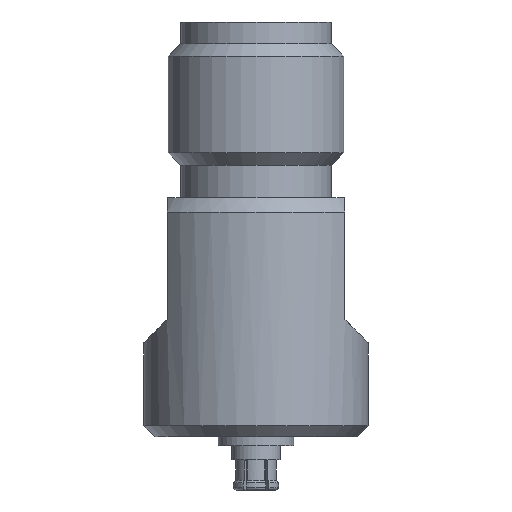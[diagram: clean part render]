
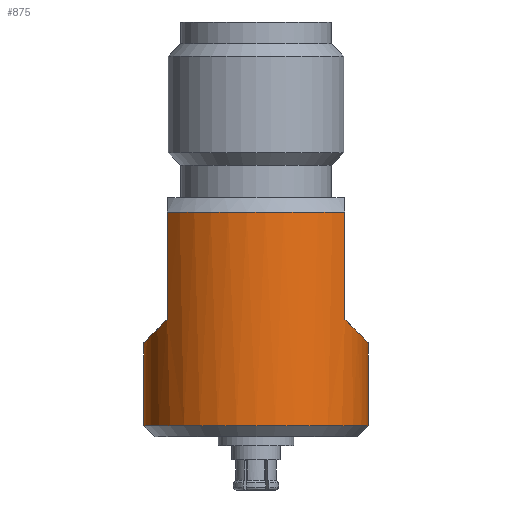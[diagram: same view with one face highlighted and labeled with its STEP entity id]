
A CAD part, front view. The second image highlights one B-rep face of the part: STEP entity #875.
In plain terms, the highlighted cylindrical face has radius 3.975 mm (diameter 7.95 mm), a partial arc.
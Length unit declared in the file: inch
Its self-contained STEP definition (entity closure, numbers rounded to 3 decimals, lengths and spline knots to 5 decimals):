
#84 = ORIENTED_EDGE ( 'NONE', *, *, #5688, .F. ) ;
#85 = DIRECTION ( 'NONE',  ( 0., 0., 1. ) ) ;
#427 = LINE ( 'NONE', #4490, #6094 ) ;
#451 = CARTESIAN_POINT ( 'NONE',  ( 0.1565, 0., -0.5632 ) ) ;
#466 = CIRCLE ( 'NONE', #2269, 0.1565 ) ;
#510 = CARTESIAN_POINT ( 'NONE',  ( 0.1565, -0.03486, -0.4475 ) ) ;
#547 = DIRECTION ( 'NONE',  ( 1., 0., 0. ) ) ;
#602 = VERTEX_POINT ( 'NONE', #1738 ) ;
#651 = VERTEX_POINT ( 'NONE', #2873 ) ;
#696 = ORIENTED_EDGE ( 'NONE', *, *, #3111, .F. ) ;
#771 = CARTESIAN_POINT ( 'NONE',  ( 0.1565, 0., 0. ) ) ;
#875 = ADVANCED_FACE ( 'NONE', ( #1089 ), #3151, .T. ) ;
#880 = VERTEX_POINT ( 'NONE', #451 ) ;
#1069 = CARTESIAN_POINT ( 'NONE',  ( 0.14527, -0.06786, -0.43627 ) ) ;
#1089 = FACE_OUTER_BOUND ( 'NONE', #6449, .T. ) ;
#1177 = ORIENTED_EDGE ( 'NONE', *, *, #4082, .T. ) ;
#1210 = DIRECTION ( 'NONE',  ( 0., 0., -1. ) ) ;
#1534 = ORIENTED_EDGE ( 'NONE', *, *, #6412, .T. ) ;
#1642 = CARTESIAN_POINT ( 'NONE',  ( -0.124, -0.09548, -0.415 ) ) ;
#1720 = AXIS2_PLACEMENT_3D ( 'NONE', #2637, #6511, #3194 ) ;
#1738 = CARTESIAN_POINT ( 'NONE',  ( -0.1565, 0., -0.4475 ) ) ;
#1859 = VECTOR ( 'NONE', #3669, 39.37008 ) ;
#2051 = VERTEX_POINT ( 'NONE', #1642 ) ;
#2083 = VECTOR ( 'NONE', #4075, 39.37008 ) ;
#2140 = ORIENTED_EDGE ( 'NONE', *, *, #3932, .T. ) ;
#2168 = CARTESIAN_POINT ( 'NONE',  ( -0.1565, 0., -0.5632 ) ) ;
#2187 = EDGE_CURVE ( 'NONE', #2051, #602, #4008, .T. ) ;
#2269 = AXIS2_PLACEMENT_3D ( 'NONE', #7152, #3830, #547 ) ;
#2337 = CARTESIAN_POINT ( 'NONE',  ( -0.1565, 0., 0. ) ) ;
#2590 = DIRECTION ( 'NONE',  ( 0., 0., 1. ) ) ;
#2637 = CARTESIAN_POINT ( 'NONE',  ( 0., 0., 0. ) ) ;
#2873 = CARTESIAN_POINT ( 'NONE',  ( 0.124, -0.09548, -0.265 ) ) ;
#3074 = AXIS2_PLACEMENT_3D ( 'NONE', #5884, #2590, #6440 ) ;
#3075 = EDGE_CURVE ( 'NONE', #4111, #2051, #427, .T. ) ;
#3111 = EDGE_CURVE ( 'NONE', #6680, #602, #3776, .T. ) ;
#3151 = CYLINDRICAL_SURFACE ( 'NONE', #1720, 0.1565 ) ;
#3186 = CARTESIAN_POINT ( 'NONE',  ( -0.14527, -0.06786, -0.43627 ) ) ;
#3194 = DIRECTION ( 'NONE',  ( 1., 0., 0. ) ) ;
#3221 =( BOUNDED_CURVE ( )  B_SPLINE_CURVE ( 3, ( #4358, #510, #1069, #4925 ),
 .UNSPECIFIED., .F., .F. ) 
 B_SPLINE_CURVE_WITH_KNOTS ( ( 4, 4 ),
 ( 3.14159, 3.79777 ),
 .UNSPECIFIED. ) 
 CURVE ( )  GEOMETRIC_REPRESENTATION_ITEM ( )  RATIONAL_B_SPLINE_CURVE ( ( 1., 0.964, 0.964, 1. ) ) 
 REPRESENTATION_ITEM ( '' )  );
#3260 = CIRCLE ( 'NONE', #3074, 0.1565 ) ;
#3669 = DIRECTION ( 'NONE',  ( 0., 0., 1. ) ) ;
#3737 = CARTESIAN_POINT ( 'NONE',  ( -0.1565, 0., -0.4475 ) ) ;
#3776 = LINE ( 'NONE', #2337, #6708 ) ;
#3830 = DIRECTION ( 'NONE',  ( 0., 0., 1. ) ) ;
#3932 = EDGE_CURVE ( 'NONE', #5987, #651, #6080, .T. ) ;
#4008 =( BOUNDED_CURVE ( )  B_SPLINE_CURVE ( 3, ( #6501, #3186, #7058, #3737 ),
 .UNSPECIFIED., .F., .T. ) 
 B_SPLINE_CURVE_WITH_KNOTS ( ( 4, 4 ),
 ( 2.48542, 3.14159 ),
 .UNSPECIFIED. ) 
 CURVE ( )  GEOMETRIC_REPRESENTATION_ITEM ( )  RATIONAL_B_SPLINE_CURVE ( ( 1., 0.964, 0.964, 1. ) ) 
 REPRESENTATION_ITEM ( '' )  );
#4075 = DIRECTION ( 'NONE',  ( 0., 0., 1. ) ) ;
#4082 = EDGE_CURVE ( 'NONE', #6504, #5987, #3221, .T. ) ;
#4111 = VERTEX_POINT ( 'NONE', #4945 ) ;
#4329 = ORIENTED_EDGE ( 'NONE', *, *, #3075, .T. ) ;
#4358 = CARTESIAN_POINT ( 'NONE',  ( 0.1565, 0., -0.4475 ) ) ;
#4490 = CARTESIAN_POINT ( 'NONE',  ( -0.124, -0.09548, 0. ) ) ;
#4925 = CARTESIAN_POINT ( 'NONE',  ( 0.124, -0.09548, -0.415 ) ) ;
#4945 = CARTESIAN_POINT ( 'NONE',  ( -0.124, -0.09548, -0.265 ) ) ;
#4957 = EDGE_CURVE ( 'NONE', #6680, #880, #466, .T. ) ;
#4999 = LINE ( 'NONE', #771, #2083 ) ;
#5688 = EDGE_CURVE ( 'NONE', #4111, #651, #3260, .T. ) ;
#5884 = CARTESIAN_POINT ( 'NONE',  ( 0., 0., -0.265 ) ) ;
#5987 = VERTEX_POINT ( 'NONE', #6711 ) ;
#6080 = LINE ( 'NONE', #6455, #1859 ) ;
#6094 = VECTOR ( 'NONE', #1210, 39.37008 ) ;
#6412 = EDGE_CURVE ( 'NONE', #880, #6504, #4999, .T. ) ;
#6440 = DIRECTION ( 'NONE',  ( 1., 0., 0. ) ) ;
#6449 = EDGE_LOOP ( 'NONE', ( #696, #6756, #1534, #1177, #2140, #84, #4329, #6499 ) ) ;
#6455 = CARTESIAN_POINT ( 'NONE',  ( 0.124, -0.09548, 0. ) ) ;
#6499 = ORIENTED_EDGE ( 'NONE', *, *, #2187, .T. ) ;
#6501 = CARTESIAN_POINT ( 'NONE',  ( -0.124, -0.09548, -0.415 ) ) ;
#6504 = VERTEX_POINT ( 'NONE', #6955 ) ;
#6511 = DIRECTION ( 'NONE',  ( 0., 0., 1. ) ) ;
#6680 = VERTEX_POINT ( 'NONE', #2168 ) ;
#6708 = VECTOR ( 'NONE', #85, 39.37008 ) ;
#6711 = CARTESIAN_POINT ( 'NONE',  ( 0.124, -0.09548, -0.415 ) ) ;
#6756 = ORIENTED_EDGE ( 'NONE', *, *, #4957, .T. ) ;
#6955 = CARTESIAN_POINT ( 'NONE',  ( 0.1565, 0., -0.4475 ) ) ;
#7058 = CARTESIAN_POINT ( 'NONE',  ( -0.1565, -0.03486, -0.4475 ) ) ;
#7152 = CARTESIAN_POINT ( 'NONE',  ( 0., 0., -0.5632 ) ) ;
